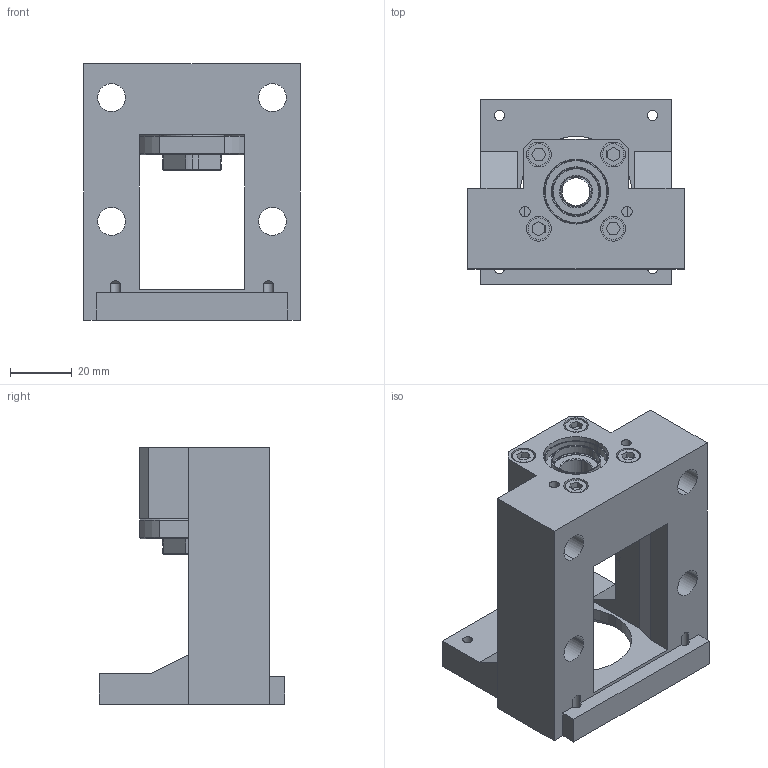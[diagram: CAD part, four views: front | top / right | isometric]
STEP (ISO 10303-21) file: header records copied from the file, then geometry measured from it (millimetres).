
FILE_DESCRIPTION (( 'STEP AP203' ), '1' );
FILE_NAME ('MBCE10-DP.STEP', '2017-12-28T07:25:49', ( '' ), ( '' ), 'SwSTEP 2.0', 'SolidWorks 2017', '' );
FILE_SCHEMA (( 'CONFIG_CONTROL_DESIGN' ));
Length unit declared in the file: millimetre
Products named in the file (1): MBCE10-DP
Bounding box: 70 x 60 x 83 mm (x, y, z)
Surface area: 34694 mm2 (no closed solid volume)
Topology: 0 solids, 19 shells, 240 faces, 661 edges, 441 vertices
Faces by surface type: plane 100, cylinder 85, cone 39, torus 12, bspline 4
Entity records: 8352 total; most frequent: CARTESIAN_POINT 2058, DIRECTION 1346, ORIENTED_EDGE 1179, EDGE_CURVE 661, AXIS2_PLACEMENT_3D 511, VERTEX_POINT 441, VECTOR 324, LINE 324
